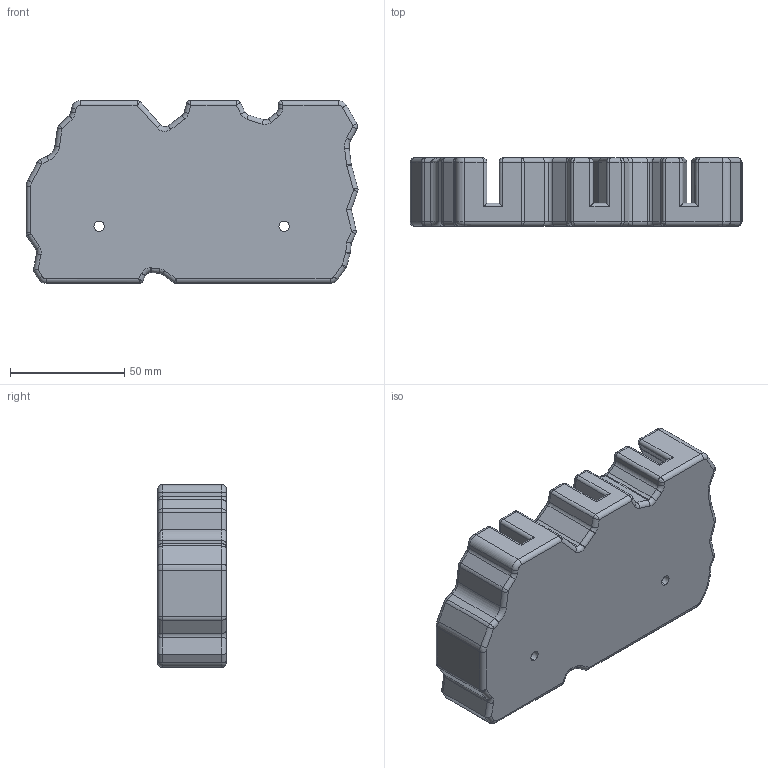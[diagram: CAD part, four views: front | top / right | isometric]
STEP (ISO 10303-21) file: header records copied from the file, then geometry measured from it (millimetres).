
FILE_DESCRIPTION (( 'STEP AP203' ), '1' );
FILE_NAME ('BASE SCREWS.STEP', '2024-09-13T15:51:26', ( '' ), ( '' ), 'SwSTEP 2.0', 'SolidWorks 2022', '' );
FILE_SCHEMA (( 'CONFIG_CONTROL_DESIGN' ));
Length unit declared in the file: millimetre
Products named in the file (1): BASE SCREWS
Bounding box: 145.34 x 30 x 80 mm (x, y, z)
Volume: 233026.5 mm3; surface area: 42799.7 mm2
Topology: 1 solids, 1 shells, 405 faces, 981 edges, 544 vertices
Faces by surface type: cylinder 202, plane 92, torus 69, bspline 37, cone 4, sphere 1
Entity records: 12610 total; most frequent: CARTESIAN_POINT 3619, DIRECTION 1911, ORIENTED_EDGE 1894, EDGE_CURVE 947, AXIS2_PLACEMENT_3D 720, VERTEX_POINT 544, VECTOR 471, LINE 471
